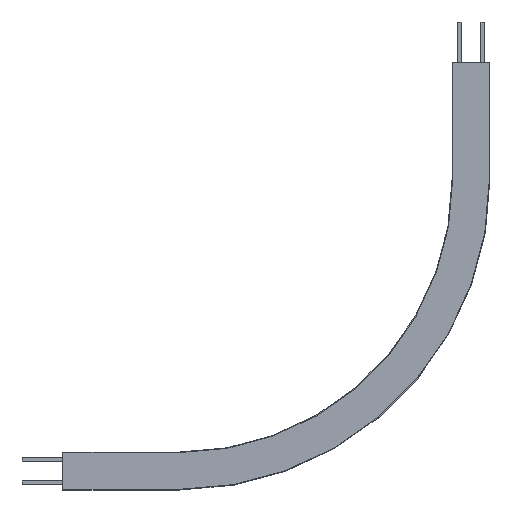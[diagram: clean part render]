
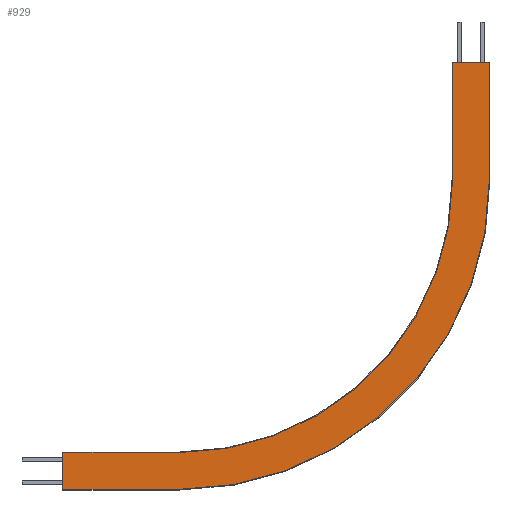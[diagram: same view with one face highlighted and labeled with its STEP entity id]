
A CAD part, top view. The second image highlights one B-rep face of the part: STEP entity #929.
In plain terms, the highlighted planar face has unit normal (0, 0, -1).
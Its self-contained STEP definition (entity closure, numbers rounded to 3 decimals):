
#61=CIRCLE('',#1011,468.5);
#62=CIRCLE('',#1013,531.5);
#119=FACE_OUTER_BOUND('',#171,.T.);
#171=EDGE_LOOP('',(#794,#795,#796,#797,#798,#799,#800,#801));
#253=LINE('',#1463,#363);
#255=LINE('',#1469,#365);
#262=LINE('',#1490,#372);
#267=LINE('',#1499,#377);
#268=LINE('',#1501,#378);
#269=LINE('',#1502,#379);
#363=VECTOR('',#1198,10.);
#365=VECTOR('',#1202,10.);
#372=VECTOR('',#1223,10.);
#377=VECTOR('',#1232,10.);
#378=VECTOR('',#1235,10.);
#379=VECTOR('',#1236,10.);
#453=VERTEX_POINT('',#1457);
#455=VERTEX_POINT('',#1461);
#456=VERTEX_POINT('',#1465);
#458=VERTEX_POINT('',#1468);
#461=VERTEX_POINT('',#1475);
#462=VERTEX_POINT('',#1480);
#464=VERTEX_POINT('',#1486);
#467=VERTEX_POINT('',#1497);
#565=EDGE_CURVE('',#453,#455,#253,.T.);
#567=EDGE_CURVE('',#456,#458,#255,.T.);
#572=EDGE_CURVE('',#461,#453,#61,.T.);
#574=EDGE_CURVE('',#462,#456,#62,.T.);
#578=EDGE_CURVE('',#464,#461,#262,.T.);
#583=EDGE_CURVE('',#467,#462,#267,.T.);
#584=EDGE_CURVE('',#467,#464,#268,.T.);
#585=EDGE_CURVE('',#455,#458,#269,.T.);
#794=ORIENTED_EDGE('',*,*,#584,.T.);
#795=ORIENTED_EDGE('',*,*,#578,.T.);
#796=ORIENTED_EDGE('',*,*,#572,.T.);
#797=ORIENTED_EDGE('',*,*,#565,.T.);
#798=ORIENTED_EDGE('',*,*,#585,.T.);
#799=ORIENTED_EDGE('',*,*,#567,.F.);
#800=ORIENTED_EDGE('',*,*,#574,.F.);
#801=ORIENTED_EDGE('',*,*,#583,.F.);
#879=PLANE('',#1018);
#929=ADVANCED_FACE('',(#119),#879,.F.);
#1011=AXIS2_PLACEMENT_3D('',#1478,#1210,#1211);
#1013=AXIS2_PLACEMENT_3D('',#1483,#1215,#1216);
#1018=AXIS2_PLACEMENT_3D('',#1500,#1233,#1234);
#1198=DIRECTION('',(0.,1.,0.));
#1202=DIRECTION('',(0.,1.,0.));
#1210=DIRECTION('center_axis',(0.,0.,1.));
#1211=DIRECTION('ref_axis',(0.,-1.,0.));
#1215=DIRECTION('center_axis',(0.,0.,1.));
#1216=DIRECTION('ref_axis',(0.,-1.,0.));
#1223=DIRECTION('',(1.,0.,0.));
#1232=DIRECTION('',(1.,0.,0.));
#1233=DIRECTION('center_axis',(0.,0.,1.));
#1234=DIRECTION('ref_axis',(0.,-1.,0.));
#1235=DIRECTION('',(0.,1.,0.));
#1236=DIRECTION('',(1.,0.,0.));
#1457=CARTESIAN_POINT('',(668.5,500.,36.5));
#1461=CARTESIAN_POINT('',(668.5,700.,36.5));
#1463=CARTESIAN_POINT('',(668.5,500.,36.5));
#1465=CARTESIAN_POINT('',(731.5,500.,36.5));
#1468=CARTESIAN_POINT('',(731.5,700.,36.5));
#1469=CARTESIAN_POINT('',(731.5,500.,36.5));
#1475=CARTESIAN_POINT('',(200.,31.5,36.5));
#1478=CARTESIAN_POINT('Origin',(200.,500.,36.5));
#1480=CARTESIAN_POINT('',(200.,-31.5,36.5));
#1483=CARTESIAN_POINT('Origin',(200.,500.,36.5));
#1486=CARTESIAN_POINT('',(0.,31.5,36.5));
#1490=CARTESIAN_POINT('',(0.,31.5,36.5));
#1497=CARTESIAN_POINT('',(0.,-31.5,36.5));
#1499=CARTESIAN_POINT('',(0.,-31.5,36.5));
#1500=CARTESIAN_POINT('Origin',(0.,31.5,36.5));
#1501=CARTESIAN_POINT('',(0.,-31.5,36.5));
#1502=CARTESIAN_POINT('',(731.5,700.,36.5));
